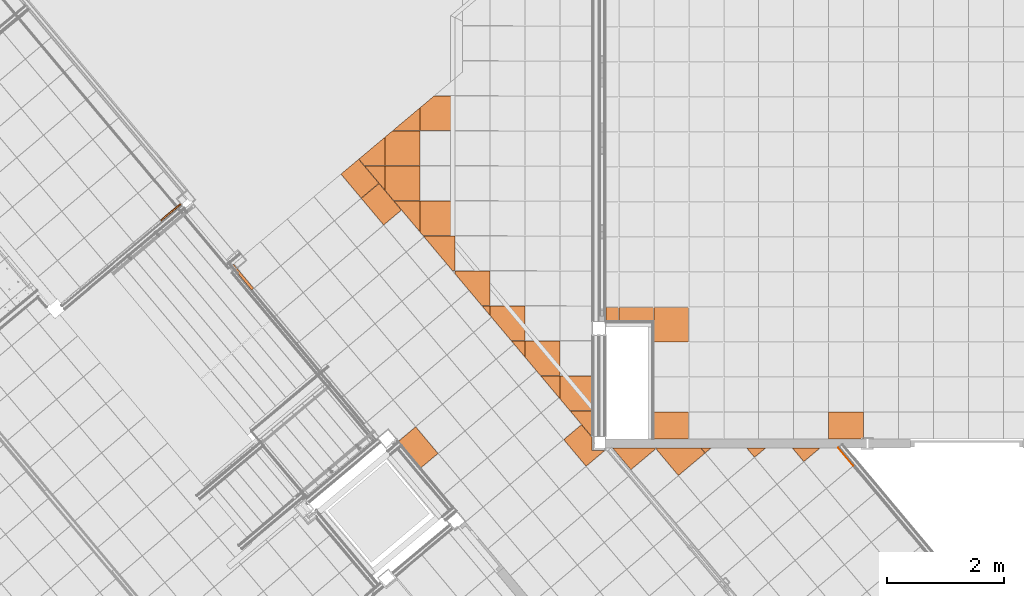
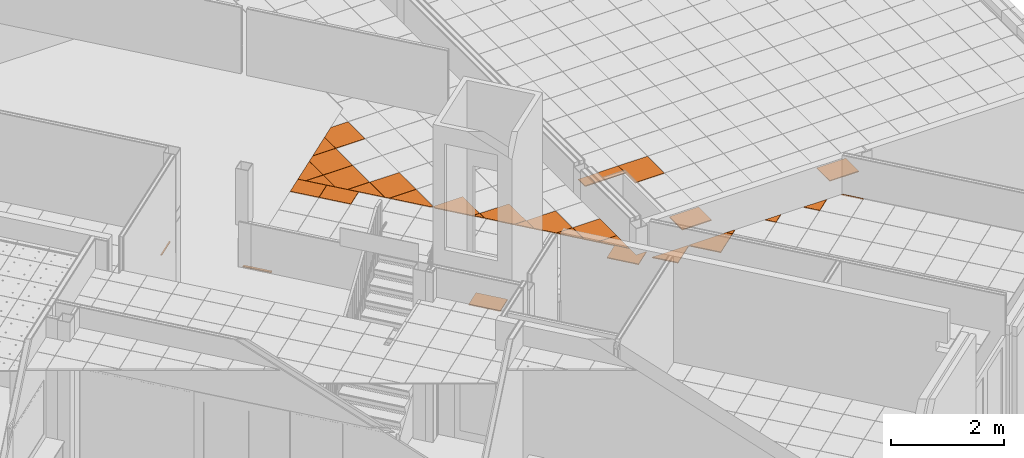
# One storey, part 330 of 338: 34 proxies, 5 elements without a shape of their own.
"""IFC2X3 building model written with IfcOpenShell, lengths in millimetres."""

from ifc_helpers import new_model, entity, si_unit, converted_unit, derived_unit, money_unit, direction, frame, origin_with_axes, place, context, subcontext, project, spatial, faceted_brep, material, type_object, element, aggregate, save


model = new_model("IFC2X3")

# Units and contexts
model_context = context("Model", 3, precision=0.01, world=origin_with_axes(), true_north=direction((0.0, 1.0)))
plan_context = context("Plan", 3, precision=0.01, world=origin_with_axes(), true_north=direction((0.0, 1.0)))
body_context = subcontext(model_context, "Body", "Model", "MODEL_VIEW")
ifc_project = project(units=[si_unit("LENGTHUNIT", "METRE", prefix="MILLI"), si_unit("AREAUNIT", "SQUARE_METRE"), si_unit("VOLUMEUNIT", "CUBIC_METRE"), converted_unit("PLANEANGLEUNIT", "DEGREE", entity("IfcPlaneAngleMeasure", 0.0174532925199), si_unit("PLANEANGLEUNIT", "RADIAN"), dimensions=[0, 0, 0, 0, 0, 0, 0]), money_unit("EUR"), converted_unit("TIMEUNIT", "Year", entity("IfcTimeMeasure", 31556926.0), si_unit("TIMEUNIT", "SECOND"), dimensions=[0, 0, 1, 0, 0, 0, 0]), si_unit("MASSUNIT", "GRAM", prefix="KILO"), si_unit("THERMODYNAMICTEMPERATUREUNIT", "DEGREE_CELSIUS"), si_unit("LUMINOUSINTENSITYUNIT", "LUMEN"), si_unit("ENERGYUNIT", "JOULE", prefix="MEGA"), derived_unit("THERMALCONDUCTANCEUNIT", [(si_unit("POWERUNIT", "WATT"), 1), (si_unit("LENGTHUNIT", "METRE"), -1), (si_unit("THERMODYNAMICTEMPERATUREUNIT", "KELVIN"), -1)]), derived_unit("SPECIFICHEATCAPACITYUNIT", [(si_unit("ENERGYUNIT", "JOULE"), 1), (si_unit("MASSUNIT", "GRAM", prefix="KILO"), -1), (si_unit("THERMODYNAMICTEMPERATUREUNIT", "KELVIN"), -1)]), derived_unit("MASSDENSITYUNIT", [(si_unit("MASSUNIT", "GRAM", prefix="KILO"), 1), (si_unit("VOLUMEUNIT", "CUBIC_METRE"), -1)])], contexts=[model_context, plan_context])

# Site, building, storey
site_placement = place(None, origin_with_axes())
site = spatial("IfcSite", under=ifc_project, at=site_placement, Name="Fortuinstraat Woensdrecht", CompositionType="ELEMENT")
building_placement = place(site_placement, origin_with_axes())
building = spatial("IfcBuilding", under=site, at=building_placement, Name="IKC Fortuna", CompositionType="ELEMENT")
storey_placement = place(building_placement, origin_with_axes())
storey = spatial("IfcBuildingStorey", under=building, at=storey_placement, Name="00 begane grond", CompositionType="ELEMENT", Elevation=0.0)

# Covering, proxies
covering_type = type_object("IfcCoveringType", Name="Curtain Wall Type", PredefinedType="CEILING")
covering_1_placement = place(storey_placement, frame((26804.4884552, -1724.43837499, 3010.0), z_axis=(0.0, 0.0, 1.0), x_axis=(1.0, 0.0, 0.0)))
covering_1 = element("IfcCovering", 1, at=covering_1_placement, inside=storey, type_object=covering_type, Name="45_Plafondafwerking_P04", PredefinedType="CEILING")
ifc_material = material(Name="Gipsplaat")
building_element_proxy_type_1 = type_object("IfcBuildingElementProxyType", Name="Distinct Panel 400 x 600 x 20", PredefinedType="NOTDEFINED")
proxy_1_placement = place(covering_1_placement, frame((-1400.52949878, 3452.24525217, 0.0), z_axis=(0.0, 0.0, 1.0), x_axis=(1.0, 0.0, 0.0)))
proxy_1 = element("IfcBuildingElementProxy", 2, at=proxy_1_placement, type_object=building_element_proxy_type_1, material=ifc_material, Name="__Panel-D", context=body_context, shape_type="Brep", body=[
    faceted_brep([(-91.113932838, 344.006631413, -10.0), (-393.715250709, 90.0940646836, -10.0), (-393.715250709, 90.0940646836, 9.99999999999), (-91.113932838, 344.006631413, 9.99999999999), (91.4760318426, 126.40404914, -10.0), (91.4760318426, -100.510147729, -10.0), (304.787213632, -100.510201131, -10.0), (-11.2566987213, -365.70243985, -10.0), (-11.2566987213, -365.70243985, 9.99999999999), (304.787213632, -100.510201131, 9.99999999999), (91.4760318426, -100.510147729, 9.99999999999), (91.4760318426, 126.40404914, 9.99999999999)], [[[0, 1, 2, 3]], [[0, 4, 5, 6, 7, 1]], [[1, 7, 8, 2]], [[3, 2, 8, 9, 10, 11]], [[4, 0, 3, 11]], [[5, 4, 11, 10]], [[6, 5, 10, 9]], [[7, 6, 9, 8]]]),
])
proxy_2_placement = place(covering_1_placement, frame((-4922.76726895, 7578.03787561, 0.0), z_axis=(0.0, 0.0, 1.0), x_axis=(1.0, 0.0, 0.0)))
proxy_2 = element("IfcBuildingElementProxy", 3, at=proxy_2_placement, type_object=building_element_proxy_type_1, material=ifc_material, Name="__Panel-D", context=body_context, shape_type="Brep", body=[
    faceted_brep([(-39.9286263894, 354.854533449, -10.0), (-342.52995073, 100.941964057, -10.0), (-342.52995073, 100.941964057, 9.99999999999), (-39.9286263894, 354.854533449, 9.99999999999), (342.52996201, -100.941947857, -10.0), (39.9286056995, -354.854538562, -10.0), (39.9286056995, -354.854538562, 9.99999999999), (342.52996201, -100.941947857, 9.99999999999)], [[[0, 1, 2, 3]], [[0, 4, 5, 1]], [[1, 5, 6, 2]], [[3, 2, 6, 7]], [[4, 0, 3, 7]], [[5, 4, 7, 6]]]),
])

# Covering, proxy
covering_2_placement = place(storey_placement, frame((34484.9342671, 3789.29664615, 3065.0), z_axis=(0.0, 0.0, 1.0), x_axis=(1.0, 0.0, 0.0)))
covering_2 = element("IfcCovering", 4, at=covering_2_placement, inside=storey, type_object=covering_type, Name="45_Plafondafwerking_P02 gec", PredefinedType="CEILING")
building_element_proxy_type_2 = type_object("IfcBuildingElementProxyType", Name="Distinct Panel 600 x 600 x 20", PredefinedType="NOTDEFINED")
proxy_3_placement = place(covering_2_placement, frame((-7694.49272604, 11.1000009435, 0.0), z_axis=(0.0, 0.0, 1.0), x_axis=(1.0, 0.0, 0.0)))
proxy_3 = element("IfcBuildingElementProxy", 5, at=proxy_3_placement, type_object=building_element_proxy_type_2, material=ifc_material, Name="__Panel-D", context=body_context, shape_type="Brep", body=[
    faceted_brep([(-237.5, 286.399999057, -10.0), (-237.5, 286.399999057, 9.99999999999), (357.5, 286.399999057, 9.99999999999), (357.5, 286.399999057, -10.0), (-237.5, 44.4000079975, -10.0), (-237.5, 44.4000079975, 9.99999999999), (-237.5, -308.600000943, 9.99999999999), (357.5, -308.600000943, 9.99999999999), (357.5, -308.600000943, -10.0), (-237.5, -308.600000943, -10.0)], [[[0, 1, 2, 3]], [[4, 5, 1, 0]], [[1, 5, 6, 7, 2]], [[3, 2, 7, 8]], [[0, 3, 8, 9, 4]], [[9, 6, 5, 4]], [[8, 7, 6, 9]]]),
])

# Covering, proxies
covering_3_placement = place(storey_placement, frame((23508.1808374, 14013.4616156, 3010.0), z_axis=(0.0, 0.0, 1.0), x_axis=(1.0, 0.0, 0.0)))
covering_3 = element("IfcCovering", 6, at=covering_3_placement, inside=storey, type_object=covering_type, Name="45_Plafondafwerking_P04", PredefinedType="CEILING")
proxy_4_placement = place(covering_3_placement, frame((1129.73611319, -10796.8484177, 1.03916875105e-10), z_axis=(0.0, 0.0, 1.0), x_axis=(1.0, 0.0, 0.0)))
proxy_4 = element("IfcBuildingElementProxy", 7, at=proxy_4_placement, type_object=building_element_proxy_type_2, material=ifc_material, Name="__Panel-D", context=body_context, shape_type="Brep", body=[
    faceted_brep([(-290.490348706, 294.348417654, -10.0), (-290.490348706, 294.348417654, 9.99999999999), (304.509651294, 294.348417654, 9.99999999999), (304.509651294, 294.348417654, -10.0), (-290.490348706, 13.5162525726, -10.0), (-290.490348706, 13.5162525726, 9.99999999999), (-26.8728410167, -300.651582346, 9.99999999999), (304.509651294, -300.651582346, 9.99999999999), (304.509651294, -300.651582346, -10.0), (-26.8728410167, -300.651582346, -10.0)], [[[0, 1, 2, 3]], [[4, 5, 1, 0]], [[1, 5, 6, 7, 2]], [[3, 2, 7, 8]], [[0, 3, 8, 9, 4]], [[9, 6, 5, 4]], [[8, 7, 6, 9]]]),
])
proxy_5_placement = place(covering_3_placement, frame((549.044339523, -10173.8376934, 0.0), z_axis=(0.0, 0.0, 1.0), x_axis=(1.0, 0.0, 0.0)))
proxy_5 = element("IfcBuildingElementProxy", 8, at=proxy_5_placement, type_object=building_element_proxy_type_2, material=ifc_material, Name="__Panel-D", context=body_context, shape_type="Brep", body=[
    faceted_brep([(-309.798575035, 271.337693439, -10.0), (-309.798575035, 271.337693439, 9.99999999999), (285.201424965, 271.337693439, 9.99999999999), (285.201424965, 271.337693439, -10.0), (-309.798575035, 105.559145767, -10.0), (-309.798575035, 105.559145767, 9.99999999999), (50.3600777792, -323.662306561, 9.99999999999), (285.201424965, -323.662306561, 9.99999999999), (285.201424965, -323.662306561, -10.0), (50.3600777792, -323.662306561, -10.0)], [[[0, 1, 2, 3]], [[4, 5, 1, 0]], [[1, 5, 6, 7, 2]], [[3, 2, 7, 8]], [[0, 3, 8, 9, 4]], [[9, 6, 5, 4]], [[8, 7, 6, 9]]]),
])
proxy_6_placement = place(covering_3_placement, frame((-713.03104754, -8447.81641555, 0.0), z_axis=(0.0, 0.0, 1.0), x_axis=(1.0, 0.0, 0.0)))
proxy_6 = element("IfcBuildingElementProxy", 9, at=proxy_6_placement, type_object=building_element_proxy_type_2, material=ifc_material, Name="__Panel-D", context=body_context, shape_type="Brep", body=[
    faceted_brep([(-247.723187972, 345.316415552, -10.0), (-247.723187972, 345.316415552, 9.99999999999), (347.276812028, 345.316415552, 9.99999999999), (347.276812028, 345.316415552, -10.0), (-247.723187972, -190.355737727, -10.0), (-247.723187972, -190.355737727, 9.99999999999), (-197.94147529, -249.683584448, 9.99999999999), (347.276812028, -249.683584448, 9.99999999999), (347.276812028, -249.683584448, -10.0), (-197.94147529, -249.683584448, -10.0)], [[[0, 1, 2, 3]], [[4, 5, 1, 0]], [[1, 5, 6, 7, 2]], [[3, 2, 7, 8]], [[0, 3, 8, 9, 4]], [[9, 6, 5, 4]], [[8, 7, 6, 9]]]),
])
proxy_7_placement = place(covering_3_placement, frame((-31.6473601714, -9550.82713977, 0.0), z_axis=(0.0, 0.0, 1.0), x_axis=(1.0, 0.0, 0.0)))
proxy_7 = element("IfcBuildingElementProxy", 10, at=proxy_7_placement, type_object=building_element_proxy_type_2, material=ifc_material, Name="__Panel-D", context=body_context, shape_type="Brep", body=[
    faceted_brep([(-329.106875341, 248.327139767, -10.0), (-329.106875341, 248.327139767, 9.99999999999), (265.893124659, 248.327139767, 9.99999999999), (265.893124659, 248.327139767, -10.0), (-329.106875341, 197.601369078, -10.0), (-329.106875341, 197.601369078, 9.99999999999), (127.593271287, -346.672860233, 9.99999999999), (265.893124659, -346.672860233, 9.99999999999), (265.893124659, -346.672860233, -10.0), (127.593271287, -346.672860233, -10.0)], [[[0, 1, 2, 3]], [[4, 5, 1, 0]], [[1, 5, 6, 7, 2]], [[3, 2, 7, 8]], [[0, 3, 8, 9, 4]], [[9, 6, 5, 4]], [[8, 7, 6, 9]]]),
])
proxy_8_placement = place(covering_3_placement, frame((-1293.72279462, -7824.80569134, 0.0), z_axis=(0.0, 0.0, 1.0), x_axis=(1.0, 0.0, 0.0)))
proxy_8 = element("IfcBuildingElementProxy", 11, at=proxy_8_placement, type_object=building_element_proxy_type_2, material=ifc_material, Name="__Panel-D", context=body_context, shape_type="Brep", body=[
    faceted_brep([(-267.031440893, 322.305691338, -10.0), (-267.031440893, 322.305691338, 9.99999999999), (327.968559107, 322.305691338, 9.99999999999), (327.968559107, 322.305691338, -10.0), (-267.031440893, -98.3128445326, -10.0), (-267.031440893, -98.3128445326, 9.99999999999), (-120.708457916, -272.694308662, 9.99999999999), (327.968559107, -272.694308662, 9.99999999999), (327.968559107, -272.694308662, -10.0), (-120.708457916, -272.694308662, -10.0)], [[[0, 1, 2, 3]], [[4, 5, 1, 0]], [[1, 5, 6, 7, 2]], [[3, 2, 7, 8]], [[0, 3, 8, 9, 4]], [[9, 6, 5, 4]], [[8, 7, 6, 9]]]),
])

# Proxy
building_element_proxy_type_3 = type_object("IfcBuildingElementProxyType", Name="Distinct Panel 600 x 462 x 20", PredefinedType="NOTDEFINED")
proxy_9_placement = place(covering_2_placement, frame((-7634.49272604, -1730.99602629, 0.0), z_axis=(0.0, 0.0, 1.0), x_axis=(1.0, 0.0, 0.0)))
proxy_9 = element("IfcBuildingElementProxy", 12, at=proxy_9_placement, type_object=building_element_proxy_type_3, material=ifc_material, Name="__Panel-D", context=body_context, shape_type="Brep", body=[
    faceted_brep([(-297.5, 228.496028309, -10.0), (-297.5, 228.496028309, 9.99999999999), (297.5, 228.496028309, 9.99999999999), (297.5, 228.496028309, -10.0), (-297.5, -228.495746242, -10.0), (-297.5, -228.495746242, 9.99999999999), (297.5, -228.496309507, 9.99999999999), (297.5, -228.496309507, -10.0)], [[[0, 1, 2, 3]], [[4, 5, 1, 0]], [[1, 5, 6, 2]], [[3, 2, 6, 7]], [[0, 3, 7, 4]], [[7, 6, 5, 4]]]),
])

proxy_10_placement = place(covering_2_placement, frame((-4634.49272604, -1730.99761936, 1.37223565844e-10), z_axis=(0.0, 0.0, 1.0), x_axis=(1.0, 0.0, 0.0)))
proxy_10 = element("IfcBuildingElementProxy", 13, at=proxy_10_placement, type_object=building_element_proxy_type_3, material=ifc_material, Name="__Panel-D", context=body_context, shape_type="Brep", body=[
    faceted_brep([(-297.5, 228.497618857, -10.0), (-297.5, 228.497618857, 9.99999999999), (297.5, 228.497618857, 9.99999999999), (297.5, 228.497618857, -10.0), (-297.5, -228.49726706, -10.0), (-297.5, -228.49726706, 9.99999999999), (297.5, -228.497973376, 9.99999999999), (297.5, -228.497973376, -10.0)], [[[0, 1, 2, 3]], [[4, 5, 1, 0]], [[1, 5, 6, 2]], [[3, 2, 6, 7]], [[0, 3, 7, 4]], [[7, 6, 5, 4]]]),
])

building_element_proxy_type_4 = type_object("IfcBuildingElementProxyType", Name="Distinct Panel 600 x 244 x 20", PredefinedType="NOTDEFINED")
proxy_11_placement = place(covering_2_placement, frame((-8234.49272604, 177.750002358, 0.0), z_axis=(0.0, 0.0, 1.0), x_axis=(1.0, 0.0, 0.0)))
proxy_11 = element("IfcBuildingElementProxy", 14, at=proxy_11_placement, type_object=building_element_proxy_type_4, material=ifc_material, Name="__Panel-D", context=body_context, shape_type="Brep", body=[
    faceted_brep([(-297.5, 119.749993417, -10.0), (-297.5, 119.749993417, 9.99999999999), (297.5, 119.749993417, 9.99999999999), (297.5, 119.749993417, -10.0), (-297.5, -119.749997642, -10.0), (-297.5, -119.749997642, 9.99999999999), (297.5, -119.749997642, 9.99999999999), (297.5, -119.749997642, -10.0)], [[[0, 1, 2, 3]], [[4, 5, 1, 0]], [[1, 5, 6, 2]], [[3, 2, 6, 7]], [[0, 3, 7, 4]], [[7, 6, 5, 4]]]),
])

building_element_proxy_type_5 = type_object("IfcBuildingElementProxyType", Name="Distinct Panel 218 x 244 x 20", PredefinedType="NOTDEFINED")
proxy_12_placement = place(covering_2_placement, frame((-8643.24598723, 177.750002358, 0.0), z_axis=(0.0, 0.0, 1.0), x_axis=(1.0, 0.0, 0.0)))
proxy_12 = element("IfcBuildingElementProxy", 15, at=proxy_12_placement, type_object=building_element_proxy_type_5, material=ifc_material, Name="__Panel-D", context=body_context, shape_type="Brep", body=[
    faceted_brep([(-106.253262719, 119.749997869, -10.0), (-106.253262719, 119.749997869, 9.99999999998), (106.253261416, 119.749997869, 9.99999999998), (106.253261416, 119.749997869, -10.0), (-106.253262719, -119.749997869, -10.0), (-106.253262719, -119.749997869, 9.99999999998), (106.253261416, -119.749997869, 9.99999999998), (106.253261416, -119.749997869, -10.0)], [[[0, 1, 2, 3]], [[4, 5, 1, 0]], [[1, 5, 6, 2]], [[3, 2, 6, 7]], [[0, 3, 7, 4]], [[7, 6, 5, 4]]]),
])

aggregate(covering_2, [proxy_11, proxy_3, proxy_12, proxy_9, proxy_10])

# Covering, proxies
covering_4_placement = place(storey_placement, frame((30245.4600673, -364.084118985, 2810.0), z_axis=(0.0, 0.0, 1.0), x_axis=(1.0, 0.0, 0.0)))
covering_4 = element("IfcCovering", 16, at=covering_4_placement, inside=storey, type_object=covering_type, Name="45_Plafondafwerking_P02", PredefinedType="CEILING")
building_element_proxy_type_6 = type_object("IfcBuildingElementProxyType", Name="Distinct Panel 258 x 217 x 20", PredefinedType="NOTDEFINED")
proxy_13_placement = place(covering_4_placement, frame((-1945.83618929, 1986.08355687, 0.0), z_axis=(0.0, 0.0, 1.0), x_axis=(1.0, 0.0, 0.0)))
proxy_13 = element("IfcBuildingElementProxy", 17, at=proxy_13_placement, type_object=building_element_proxy_type_6, material=ifc_material, Name="__Panel-D", context=body_context, shape_type="Brep", body=[
    faceted_brep([(171.338135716, 52.7990398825, -10.0), (-153.343862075, 52.7987355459, -10.0), (-153.343862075, 52.7987355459, 10.0), (171.338135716, 52.7990398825, 10.0), (-19.1935694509, -107.075697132, -10.0), (-19.1935694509, -107.075697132, 10.0)], [[[0, 1, 2, 3]], [[0, 4, 1]], [[1, 4, 5, 2]], [[3, 2, 5]], [[4, 0, 3, 5]]]),
])
building_element_proxy_type_7 = type_object("IfcBuildingElementProxyType", Name="Distinct Panel 373 x 313 x 20", PredefinedType="NOTDEFINED")
proxy_14_placement = place(covering_4_placement, frame((-1091.84335719, 1961.43230715, 0.0), z_axis=(0.0, 0.0, 1.0), x_axis=(1.0, 0.0, 0.0)))
proxy_14 = element("IfcBuildingElementProxy", 18, at=proxy_14_placement, type_object=building_element_proxy_type_7, material=ifc_material, Name="__Panel-D", context=body_context, shape_type="Brep", body=[
    faceted_brep([(250.781508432, 77.4509042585, -10.0), (-224.093531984, 77.4506079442, -10.0), (-224.093531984, 77.4506079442, 10.0), (250.781508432, 77.4509042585, 10.0), (-27.8872541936, -156.379433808, -10.0), (-27.8872541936, -156.379433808, 10.0)], [[[0, 1, 2, 3]], [[0, 4, 1]], [[1, 4, 5, 2]], [[3, 2, 5]], [[4, 0, 3, 5]]]),
])
building_element_proxy_type_8 = type_object("IfcBuildingElementProxyType", Name="Distinct Panel 143 x 120 x 20", PredefinedType="NOTDEFINED")
proxy_15_placement = place(covering_4_placement, frame((-2799.82908648, 2010.7348348, 0.0), z_axis=(0.0, 0.0, 1.0), x_axis=(1.0, 0.0, 0.0)))
proxy_15 = element("IfcBuildingElementProxy", 19, at=proxy_15_placement, type_object=building_element_proxy_type_8, material=ifc_material, Name="__Panel-D", context=body_context, shape_type="Brep", body=[
    faceted_brep([(91.894764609, 28.1470942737, -10.0), (-82.5942395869, 28.1469704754, -10.0), (-82.5942395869, 28.1469704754, 10.0), (91.894764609, 28.1470942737, 10.0), (-10.4998294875, -57.7719874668, -10.0), (-10.4998294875, -57.7719874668, 10.0)], [[[0, 1, 2, 3]], [[0, 4, 1]], [[1, 4, 5, 2]], [[3, 2, 5]], [[4, 0, 3, 5]]]),
])
building_element_proxy_type_9 = type_object("IfcBuildingElementProxyType", Name="Distinct Panel 28 x 600 x 20", PredefinedType="NOTDEFINED")
proxy_16_placement = place(covering_4_placement, frame((-3251.82477547, 1923.87365428, 0.0), z_axis=(0.0, 0.0, 1.0), x_axis=(1.0, 0.0, 0.0)))
proxy_16 = element("IfcBuildingElementProxy", 20, at=proxy_16_placement, type_object=building_element_proxy_type_9, material=ifc_material, Name="__Panel-D", context=body_context, shape_type="Brep", body=[
    faceted_brep([(362.874417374, 115.008157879, -10.0), (-381.767177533, 115.007604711, -10.0), (-381.767177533, 115.007604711, 9.99999999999), (362.874417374, 115.008157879, 9.99999999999), (437.665628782, 25.8752680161, -10.0), (-18.1312030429, -356.582884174, -10.0), (-400.589355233, 99.2139602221, -10.0), (-400.589355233, 99.2139602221, 9.99999999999), (-18.1312030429, -356.582884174, 9.99999999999), (437.665628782, 25.8752680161, 9.99999999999)], [[[0, 1, 2, 3]], [[0, 4, 5, 6, 1]], [[1, 6, 7, 2]], [[3, 2, 7, 8, 9]], [[4, 0, 3, 9]], [[5, 4, 9, 8]], [[6, 5, 8, 7]]]),
])
building_element_proxy_type_10 = type_object("IfcBuildingElementProxyType", Name="Distinct Panel 560 x 494 x 20", PredefinedType="NOTDEFINED")
proxy_17_placement = place(covering_4_placement, frame((-3953.68119734, 1942.33745698, 0.0), z_axis=(0.0, 0.0, 1.0), x_axis=(1.0, 0.0, 0.0)))
proxy_17 = element("IfcBuildingElementProxy", 21, at=proxy_17_placement, type_object=building_element_proxy_type_10, material=ifc_material, Name="__Panel-D", context=body_context, shape_type="Brep", body=[
    faceted_brep([(281.48756281, 96.5438714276, -10.0), (-443.506953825, 96.5433052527, -10.0), (-443.506953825, 96.5433052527, 9.99999999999), (281.48756281, 96.5438714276, 9.99999999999), (294.222901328, 81.3664429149, -10.0), (-131.221949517, -275.623410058, -10.0), (-131.221949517, -275.623410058, 9.99999999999), (294.222901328, 81.3664429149, 9.99999999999)], [[[0, 1, 2, 3]], [[0, 4, 5, 1]], [[1, 5, 6, 2]], [[3, 2, 6, 7]], [[4, 0, 3, 7]], [[5, 4, 7, 6]]]),
])
building_element_proxy_type_11 = type_object("IfcBuildingElementProxyType", Name="Distinct Panel 10 x 410 x 20", PredefinedType="NOTDEFINED")
proxy_18_placement = place(covering_4_placement, frame((-401.027986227, 1886.14574579, 0.0), z_axis=(0.0, 0.0, 1.0), x_axis=(1.0, 0.0, 0.0)))
proxy_18 = element("IfcBuildingElementProxy", 22, at=proxy_18_placement, type_object=building_element_proxy_type_11, material=ifc_material, Name="__Panel-D", context=body_context, shape_type="Brep", body=[
    faceted_brep([(-124.658097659, 152.737725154, -10.0), (-131.665661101, 152.737687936, -10.0), (-131.665661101, 152.737687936, 10.0), (-124.658097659, 152.737725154, 10.0), (130.708764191, -151.597299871, -10.0), (126.596531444, -155.047865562, -10.0), (126.596531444, -155.047865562, 10.0), (130.708764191, -151.597299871, 10.0)], [[[0, 1, 2, 3]], [[0, 4, 5, 1]], [[1, 5, 6, 2]], [[3, 2, 6, 7]], [[4, 0, 3, 7]], [[5, 4, 7, 6]]]),
])
aggregate(covering_4, [proxy_13, proxy_14, proxy_15, proxy_16, proxy_17, proxy_18])

# Proxy
building_element_proxy_type_12 = type_object("IfcBuildingElementProxyType", Name="Distinct Panel 553 x 600 x 20", PredefinedType="NOTDEFINED")
proxy_19_placement = place(covering_3_placement, frame((1691.63117626, -11419.8592271, 1.21680443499e-10), z_axis=(0.0, 0.0, 1.0), x_axis=(1.0, 0.0, 0.0)))
proxy_19 = element("IfcBuildingElementProxy", 23, at=proxy_19_placement, type_object=building_element_proxy_type_12, material=ifc_material, Name="__Panel-D", context=body_context, shape_type="Brep", body=[
    faceted_brep([(-252.385408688, 317.35922714, -10.0), (-252.385408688, 317.35922714, 9.99999999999), (295.623013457, 317.35922714, 9.99999999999), (295.623013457, 317.35922714, -10.0), (-252.385408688, -78.5269845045, -10.0), (-252.385408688, -78.5269845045, 9.99999999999), (-85.3094573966, -277.64077286, 9.99999999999), (295.623040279, -277.64077286, 9.99999999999), (295.623040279, -277.64077286, -10.0), (-85.3094573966, -277.64077286, -10.0)], [[[0, 1, 2, 3]], [[4, 5, 1, 0]], [[1, 5, 6, 7, 2]], [[3, 2, 7, 8]], [[0, 3, 8, 9, 4]], [[9, 6, 5, 4]], [[8, 7, 6, 9]]]),
])

building_element_proxy_type_13 = type_object("IfcBuildingElementProxyType", Name="Distinct Panel 335 x 399 x 20", PredefinedType="NOTDEFINED")
proxy_20_placement = place(covering_3_placement, frame((1325.06301233, -11233.0987119, 1.10134124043e-10), z_axis=(0.0, 0.0, 1.0), x_axis=(1.0, 0.0, 0.0)))
proxy_20 = element("IfcBuildingElementProxy", 24, at=proxy_20_placement, type_object=building_element_proxy_type_13, material=ifc_material, Name="__Panel-D", context=body_context, shape_type="Brep", body=[
    faceted_brep([(-218.004253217, 130.598712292, -10.0), (-218.004253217, 130.598712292, 9.99999999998), (109.182752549, 130.598712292, 9.99999999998), (109.182752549, 130.598712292, -10.0), (109.182752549, -259.328711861, -10.0), (109.182752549, -259.328711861, 9.99999999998)], [[[0, 1, 2, 3]], [[4, 5, 1, 0]], [[1, 5, 2]], [[3, 2, 5, 4]], [[0, 3, 4]]]),
])

building_element_proxy_type_14 = type_object("IfcBuildingElementProxyType", Name="Distinct Panel 474 x 398 x 20", PredefinedType="NOTDEFINED")
proxy_21_placement = place(covering_3_placement, frame((-1121.28910822, -6767.39300174, 0.0), z_axis=(0.0, 0.0, 1.0), x_axis=(1.0, 0.0, 0.0)))
proxy_21 = element("IfcBuildingElementProxy", 25, at=proxy_21_placement, type_object=building_element_proxy_type_14, material=ifc_material, Name="__Panel-D", context=body_context, shape_type="Brep", body=[
    faceted_brep([(155.534873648, 259.852725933, -10.0), (155.534873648, 259.852725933, 9.99999999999), (155.534873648, -130.106999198, 9.99999999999), (155.534873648, -130.106999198, -10.0), (-309.201050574, -130.106999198, -10.0), (-309.201050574, -130.106999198, 9.99999999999)], [[[0, 1, 2, 3]], [[4, 5, 1, 0]], [[1, 5, 2]], [[3, 2, 5, 4]], [[0, 3, 4]]]),
])

building_element_proxy_type_15 = type_object("IfcBuildingElementProxyType", Name="Distinct Panel 356 x 494 x 20", PredefinedType="NOTDEFINED")
proxy_22_placement = place(covering_3_placement, frame((-1765.25916812, -7347.68342349, 0.0), z_axis=(0.0, 0.0, 1.0), x_axis=(1.0, 0.0, 0.0)))
proxy_22 = element("IfcBuildingElementProxy", 26, at=proxy_22_placement, type_object=building_element_proxy_type_15, material=ifc_material, Name="__Panel-D", context=body_context, shape_type="Brep", body=[
    faceted_brep([(199.504934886, 336.683341, -10.0), (199.504934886, 336.683341, 9.99999999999), (199.504934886, -149.816578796, 9.99999999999), (199.504934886, -149.816578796, -10.0), (-246.691202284, -37.7195956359, -10.0), (-246.691202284, -37.7195956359, 9.99999999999), (-152.630820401, -149.816578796, 9.99999999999), (-152.630820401, -149.816578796, -10.0)], [[[0, 1, 2, 3]], [[4, 5, 1, 0]], [[1, 5, 6, 2]], [[3, 2, 6, 7]], [[0, 3, 7, 4]], [[7, 6, 5, 4]]]),
])

building_element_proxy_type_16 = type_object("IfcBuildingElementProxyType", Name="Distinct Panel 474 x 600 x 20", PredefinedType="NOTDEFINED")
proxy_23_placement = place(covering_3_placement, frame((-1298.07515914, -7161.12776469, 0.0), z_axis=(0.0, 0.0, 1.0), x_axis=(1.0, 0.0, 0.0)))
proxy_23 = element("IfcBuildingElementProxy", 27, at=proxy_23_placement, type_object=building_element_proxy_type_16, material=ifc_material, Name="__Panel-D", context=body_context, shape_type="Brep", body=[
    faceted_brep([(-138.373769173, 258.627764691, -10.0), (-138.373769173, 258.627764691, 9.99999999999), (332.320923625, 258.627764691, 9.99999999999), (332.320923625, 258.627764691, -10.0), (-262.679076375, 154.323172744, -10.0), (-262.679076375, 154.323172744, 9.99999999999), (-262.679076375, -336.372235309, 9.99999999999), (332.320923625, -336.372235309, 9.99999999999), (332.320923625, -336.372235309, -10.0), (-262.679076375, -336.372235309, -10.0)], [[[0, 1, 2, 3]], [[4, 5, 1, 0]], [[1, 5, 6, 7, 2]], [[3, 2, 7, 8]], [[0, 3, 8, 9, 4]], [[9, 6, 5, 4]], [[8, 7, 6, 9]]]),
])

building_element_proxy_type_17 = type_object("IfcBuildingElementProxyType", Name="Distinct Panel 239 x 284 x 20", PredefinedType="NOTDEFINED")
proxy_24_placement = place(covering_3_placement, frame((757.243389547, -10594.7473628, 0.0), z_axis=(0.0, 0.0, 1.0), x_axis=(1.0, 0.0, 0.0)))
proxy_24 = element("IfcBuildingElementProxy", 28, at=proxy_24_placement, type_object=building_element_proxy_type_17, material=ifc_material, Name="__Panel-D", context=body_context, shape_type="Brep", body=[
    faceted_brep([(-153.643487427, 92.2473658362, -10.0), (-153.643487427, 92.2473658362, 9.99999999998), (77.002378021, 92.2473658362, 9.99999999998), (77.002378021, 92.2473658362, -10.0), (77.002378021, -182.62602876, -10.0), (77.002378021, -182.62602876, 9.99999999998)], [[[0, 1, 2, 3]], [[4, 5, 1, 0]], [[1, 5, 2]], [[3, 2, 5, 4]], [[0, 3, 4]]]),
])

building_element_proxy_type_18 = type_object("IfcBuildingElementProxyType", Name="Distinct Panel 385 x 458 x 20", PredefinedType="NOTDEFINED")
proxy_25_placement = place(covering_3_placement, frame((1861.55479436, -11852.7824412, 1.27453603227e-10), z_axis=(0.0, 0.0, 1.0), x_axis=(1.0, 0.0, 0.0)))
proxy_25 = element("IfcBuildingElementProxy", 29, at=proxy_25_placement, type_object=building_element_proxy_type_18, material=ifc_material, Name="__Panel-D", context=body_context, shape_type="Brep", body=[
    faceted_brep([(-251.037581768, 150.282439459, -10.0), (-251.037581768, 150.282439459, 9.99999999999), (125.699420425, 150.282439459, 9.99999999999), (125.699420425, 150.282439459, -10.0), (125.699420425, -298.696173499, -10.0), (125.699420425, -298.696173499, 9.99999999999)], [[[0, 1, 2, 3]], [[4, 5, 1, 0]], [[1, 5, 2]], [[3, 2, 5, 4]], [[0, 3, 4]]]),
])

building_element_proxy_type_19 = type_object("IfcBuildingElementProxyType", Name="Distinct Panel 142 x 169 x 20", PredefinedType="NOTDEFINED")
proxy_26_placement = place(covering_3_placement, frame((189.423890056, -9956.39615573, 0.0), z_axis=(0.0, 0.0, 1.0), x_axis=(1.0, 0.0, 0.0)))
proxy_26 = element("IfcBuildingElementProxy", 30, at=proxy_26_placement, type_object=building_element_proxy_type_19, material=ifc_material, Name="__Panel-D", context=body_context, shape_type="Brep", body=[
    faceted_brep([(-89.2824902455, 53.8961566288, -10.0), (-89.2824902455, 53.8961566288, 9.99999999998), (44.8218753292, 53.8961566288, 9.99999999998), (44.8218753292, 53.8961566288, -10.0), (44.8218753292, -105.92360526, -10.0), (44.8218753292, -105.92360526, 9.99999999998)], [[[0, 1, 2, 3]], [[4, 5, 1, 0]], [[1, 5, 2]], [[3, 2, 5, 4]], [[0, 3, 4]]]),
])

building_element_proxy_type_20 = type_object("IfcBuildingElementProxyType", Name="Distinct Panel 356 x 424 x 20", PredefinedType="NOTDEFINED")
proxy_27_placement = place(covering_3_placement, frame((-1681.85474255, -7641.3428189, 0.0), z_axis=(0.0, 0.0, 1.0), x_axis=(1.0, 0.0, 0.0)))
proxy_27 = element("IfcBuildingElementProxy", 31, at=proxy_27_placement, type_object=building_element_proxy_type_20, material=ifc_material, Name="__Panel-D", context=body_context, shape_type="Brep", body=[
    faceted_brep([(-231.839751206, 138.842818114, -10.0), (-231.839751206, 138.842818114, 9.99999999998), (116.100506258, 138.842818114, 9.99999999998), (116.100506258, 138.842818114, -10.0), (116.100506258, -275.816934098, -10.0), (116.100506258, -275.816934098, 9.99999999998)], [[[0, 1, 2, 3]], [[4, 5, 1, 0]], [[1, 5, 2]], [[3, 2, 5, 4]], [[0, 3, 4]]]),
])

building_element_proxy_type_21 = type_object("IfcBuildingElementProxyType", Name="Distinct Panel 549 x 600 x 20", PredefinedType="NOTDEFINED")
proxy_28_placement = place(covering_3_placement, frame((-511.8314952, -9000.0, 0.0), z_axis=(0.0, 0.0, 1.0), x_axis=(1.0, 0.0, 0.0)))
proxy_28 = element("IfcBuildingElementProxy", 32, at=proxy_28_placement, type_object=building_element_proxy_type_21, material=ifc_material, Name="__Panel-D", context=body_context, shape_type="Brep", body=[
    faceted_brep([(-394.94553911, 297.5, -10.0), (-394.94553911, 297.5, 9.99999999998), (146.077259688, 297.5, 9.99999999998), (146.077259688, 297.5, -10.0), (104.318050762, -297.5, -10.0), (104.318050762, -297.5, 9.99999999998), (146.077259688, -297.5, 9.99999999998), (146.077259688, -297.5, -10.0)], [[[0, 1, 2, 3]], [[4, 5, 1, 0]], [[1, 5, 6, 2]], [[3, 2, 6, 7]], [[0, 3, 7, 4]], [[7, 6, 5, 4]]]),
])

building_element_proxy_type_22 = type_object("IfcBuildingElementProxyType", Name="Distinct Panel 452 x 539 x 20", PredefinedType="NOTDEFINED")
proxy_29_placement = place(covering_3_placement, frame((-1114.03516736, -8279.69402592, 0.0), z_axis=(0.0, 0.0, 1.0), x_axis=(1.0, 0.0, 0.0)))
proxy_29 = element("IfcBuildingElementProxy", 33, at=proxy_29_placement, type_object=building_element_proxy_type_22, material=ifc_material, Name="__Panel-D", context=body_context, shape_type="Brep", body=[
    faceted_brep([(-296.200602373, 177.194021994, -10.0), (-296.200602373, 177.194021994, 9.99999999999), (148.280927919, 177.194021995, 9.99999999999), (148.280927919, 177.194021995, -10.0), (148.280927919, -352.519333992, -10.0), (148.280927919, -352.519333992, 9.99999999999)], [[[0, 1, 2, 3]], [[4, 5, 1, 0]], [[1, 5, 2]], [[3, 2, 5, 4]], [[0, 3, 4]]]),
])

building_element_proxy_type_23 = type_object("IfcBuildingElementProxyType", Name="Distinct Panel 359 x 600 x 20", PredefinedType="NOTDEFINED")
proxy_30_placement = place(covering_3_placement, frame((-675.064772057, -6580.43580105, 0.0), z_axis=(0.0, 0.0, 1.0), x_axis=(1.0, 0.0, 0.0)))
proxy_30 = element("IfcBuildingElementProxy", 34, at=proxy_30_placement, type_object=building_element_proxy_type_23, material=ifc_material, Name="__Panel-D", context=body_context, shape_type="Brep", body=[
    faceted_brep([(-46.3322196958, 277.935801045, -10.0), (-46.3322196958, 277.935801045, 9.99999999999), (309.310536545, 277.935801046, 9.99999999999), (309.310536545, 277.935801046, -10.0), (-285.689463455, 77.0910206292, -10.0), (-285.689463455, 77.0910206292, 9.99999999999), (-285.689463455, -317.064198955, 9.99999999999), (309.310536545, -317.064198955, 9.99999999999), (309.310536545, -317.064198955, -10.0), (-285.689463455, -317.064198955, -10.0)], [[[0, 1, 2, 3]], [[4, 5, 1, 0]], [[1, 5, 6, 7, 2]], [[3, 2, 7, 8]], [[0, 3, 8, 9, 4]], [[9, 6, 5, 4]], [[8, 7, 6, 9]]]),
])

aggregate(covering_3, [proxy_19, proxy_20, proxy_21, proxy_22, proxy_23, proxy_24, proxy_4, proxy_25, proxy_5, proxy_26, proxy_27, proxy_6, proxy_7, proxy_28, proxy_29, proxy_30, proxy_8])

building_element_proxy_type_24 = type_object("IfcBuildingElementProxyType", Name="Distinct Panel 52 x 544 x 20", PredefinedType="NOTDEFINED")
proxy_31_placement = place(covering_1_placement, frame((-7302.12469087, 6327.92523101, 0.0), z_axis=(0.0, 0.0, 1.0), x_axis=(1.0, 0.0, 0.0)))
proxy_31 = element("IfcBuildingElementProxy", 35, at=proxy_31_placement, type_object=building_element_proxy_type_24, material=ifc_material, Name="__Panel-D", context=body_context, shape_type="Brep", body=[
    faceted_brep([(-154.902217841, 221.540663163, -10.0), (-191.276416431, 191.019097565, -10.0), (-191.276416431, 191.019097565, 9.99999999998), (-154.902217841, 221.540663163, 9.99999999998), (191.276415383, -191.019088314, -10.0), (154.902216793, -221.540660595, -10.0), (154.902216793, -221.540660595, 9.99999999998), (191.276415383, -191.019088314, 9.99999999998)], [[[0, 1, 2, 3]], [[0, 4, 5, 1]], [[1, 5, 6, 2]], [[3, 2, 6, 7]], [[4, 0, 3, 7]], [[5, 4, 7, 6]]]),
])

building_element_proxy_type_25 = type_object("IfcBuildingElementProxyType", Name="Distinct Panel 387 x 600 x 20", PredefinedType="NOTDEFINED")
proxy_32_placement = place(covering_1_placement, frame((-4289.2426854, 3410.16231657, 0.0), z_axis=(0.0, 0.0, 1.0), x_axis=(1.0, 0.0, 0.0)))
proxy_32 = element("IfcBuildingElementProxy", 36, at=proxy_32_placement, type_object=building_element_proxy_type_25, material=ifc_material, Name="__Panel-D", context=body_context, shape_type="Brep", body=[
    faceted_brep([(-44.7299531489, 350.825751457, -10.0), (-337.728602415, 104.970762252, -10.0), (-337.728602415, 104.970762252, 9.99999999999), (-44.7299531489, 350.825751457, 9.99999999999), (337.728603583, -104.970770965, -10.0), (44.7299543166, -350.825749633, -10.0), (44.7299543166, -350.825749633, 9.99999999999), (337.728603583, -104.970770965, 9.99999999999)], [[[0, 1, 2, 3]], [[0, 4, 5, 1]], [[1, 5, 6, 2]], [[3, 2, 6, 7]], [[4, 0, 3, 7]], [[5, 4, 7, 6]]]),
])

building_element_proxy_type_26 = type_object("IfcBuildingElementProxyType", Name="Distinct Panel 400 x 544 x 20", PredefinedType="NOTDEFINED")
proxy_33_placement = place(covering_1_placement, frame((-5290.29980243, 8016.04622836, 0.0), z_axis=(0.0, 0.0, 1.0), x_axis=(1.0, 0.0, 0.0)))
proxy_33 = element("IfcBuildingElementProxy", 37, at=proxy_33_placement, type_object=building_element_proxy_type_26, material=ifc_material, Name="__Panel-D", context=body_context, shape_type="Brep", body=[
    faceted_brep([(-21.7886196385, 333.236194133, -10.0), (-324.389987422, 79.3235892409, -10.0), (-324.389987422, 79.3235892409, 9.99999999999), (-21.7886196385, 333.236194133, 9.99999999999), (324.389961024, -79.3235923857, -10.0), (21.7886533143, -333.236177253, -10.0), (21.7886533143, -333.236177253, 9.99999999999), (324.389961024, -79.3235923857, 9.99999999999)], [[[0, 1, 2, 3]], [[0, 4, 5, 1]], [[1, 5, 6, 2]], [[3, 2, 6, 7]], [[4, 0, 3, 7]], [[5, 4, 7, 6]]]),
])

aggregate(covering_1, [proxy_1, proxy_2, proxy_31, proxy_32, proxy_33])

# Covering, proxy
covering_5_placement = place(storey_placement, frame((15581.2998521, 5435.5548951, 3210.0), z_axis=(0.0, 0.0, 1.0), x_axis=(1.0, 0.0, 0.0)))
covering_5 = element("IfcCovering", 38, at=covering_5_placement, inside=storey, type_object=covering_type, Name="45_Plafondafwerking_P02 v", PredefinedType="CEILING")
building_element_proxy_type_27 = type_object("IfcBuildingElementProxyType", Name="Distinct Panel 20", PredefinedType="NOTDEFINED")
proxy_34_placement = place(covering_5_placement, frame((2690.69135234, 280.125181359, 0.0), z_axis=(0.0, 0.0, 1.0), x_axis=(1.0, 0.0, 0.0)))
proxy_34 = element("IfcBuildingElementProxy", 39, at=proxy_34_placement, type_object=building_element_proxy_type_27, material=ifc_material, Name="__Panel-D", context=body_context, shape_type="Brep", body=[
    faceted_brep([(159.661843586, 150.231177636, -10.0), (159.661843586, 150.231177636, 9.99999999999), (175.673979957, 131.149071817, 9.99999999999), (175.673979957, 131.149071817, -10.0), (-175.673874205, -131.148992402, -10.0), (-175.673874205, -131.148992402, 9.99999999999), (-159.661945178, -150.231257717, 9.99999999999), (-159.661945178, -150.231257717, -10.0)], [[[0, 1, 2, 3]], [[4, 5, 1, 0]], [[1, 5, 6, 2]], [[3, 2, 6, 7]], [[0, 3, 7, 4]], [[7, 6, 5, 4]]]),
])
aggregate(covering_5, [proxy_34])

save(model, "model.ifc")
